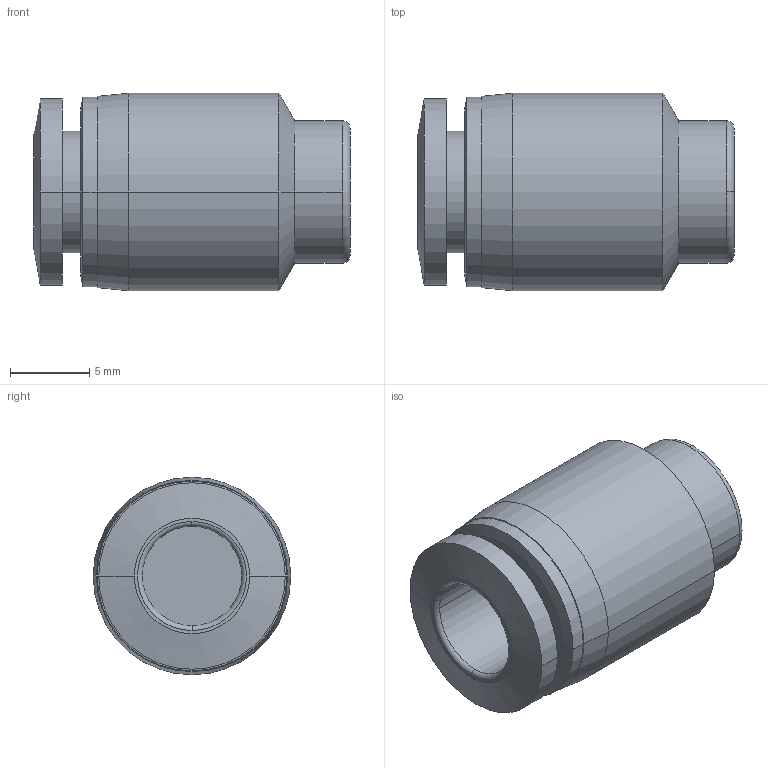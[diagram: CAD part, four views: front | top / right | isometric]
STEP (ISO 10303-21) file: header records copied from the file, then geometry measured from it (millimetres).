
FILE_DESCRIPTION (( 'STEP AP203' ), '1' );
FILE_NAME ('FC06-00.STEP', '2020-05-13T10:09:42', ( '' ), ( '' ), 'SwSTEP 2.0', 'SolidWorks 2019', '' );
FILE_SCHEMA (( 'CONFIG_CONTROL_DESIGN' ));
Length unit declared in the file: millimetre
Products named in the file (1): FC06-00
Bounding box: 20 x 12.5 x 12.5 mm (x, y, z)
Volume: 1557.2 mm3; surface area: 1353.3 mm2
Topology: 1 solids, 1 shells, 30 faces, 62 edges, 38 vertices
Faces by surface type: cylinder 12, cone 8, plane 6, torus 4
Entity records: 885 total; most frequent: DIRECTION 166, CARTESIAN_POINT 131, ORIENTED_EDGE 124, AXIS2_PLACEMENT_3D 73, EDGE_CURVE 62, CIRCLE 42, VERTEX_POINT 38, EDGE_LOOP 34
